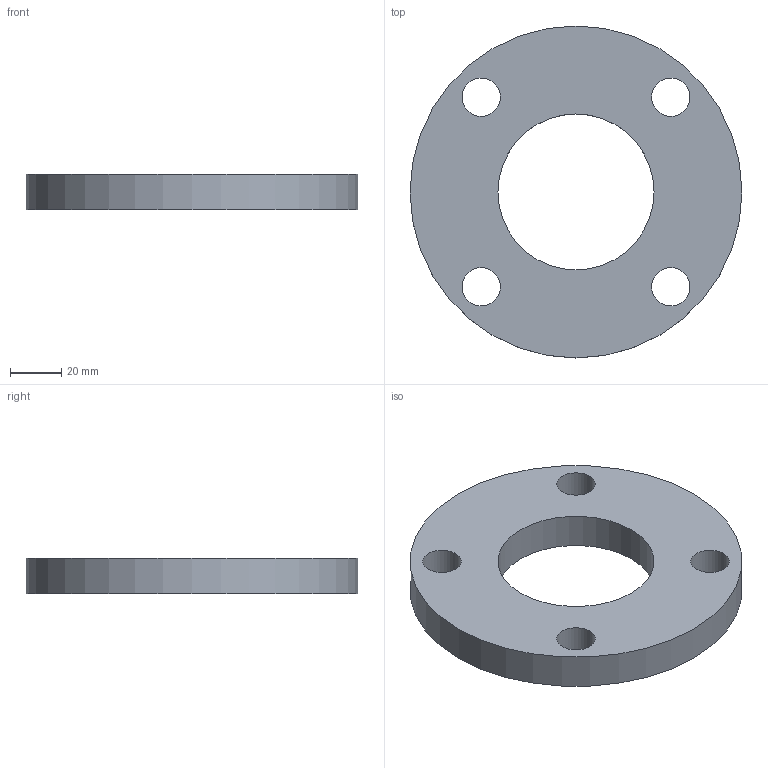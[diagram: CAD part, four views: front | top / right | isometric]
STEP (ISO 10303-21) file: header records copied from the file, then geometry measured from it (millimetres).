
FILE_DESCRIPTION(/* description */ (''),/* implementation_level */ '2;1');
FILE_NAME(/* name */ 'C:\Users\D\Documents\Inventor\HP\JIS\フランジ\JIS 5k sop ff\jis5k-sop-ff-50.stp',/* time_stamp */ '2024-09-12T16:54:36+09:00',/* author */ ('D'),/* organization */ (''),/* preprocessor_version */ 'ST-DEVELOPER v18',/* originating_system */ 'Autodesk Inventor 2020',/* authorisation */ '');
FILE_SCHEMA (('AUTOMOTIVE_DESIGN { 1 0 10303 214 3 1 1 }'));
Length unit declared in the file: millimetre
Products named in the file (1): jis5k-sop-rf-10
Bounding box: 130 x 130 x 14 mm (x, y, z)
Volume: 134880.4 mm3; surface area: 30312.6 mm2
Topology: 1 solids, 1 shells, 8 faces, 25 edges, 19 vertices
Faces by surface type: cylinder 6, plane 2
Full cylindrical faces by diameter (mm): 15 x4, 61.1 x1, 130 x1
Entity records: 365 total; most frequent: DIRECTION 62, CARTESIAN_POINT 53, ORIENTED_EDGE 50, AXIS2_PLACEMENT_3D 28, EDGE_CURVE 25, CIRCLE 19, VERTEX_POINT 19, EDGE_LOOP 18
